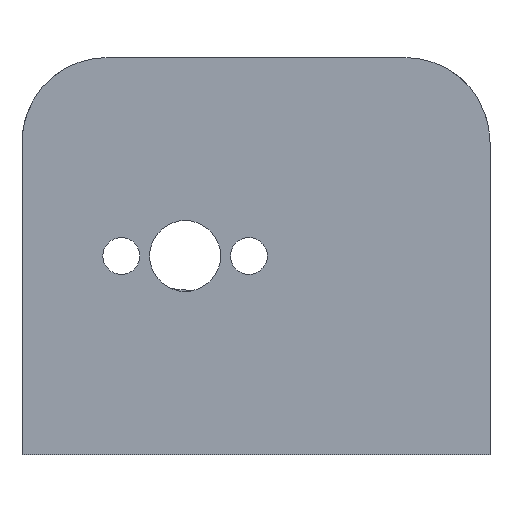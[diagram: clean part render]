
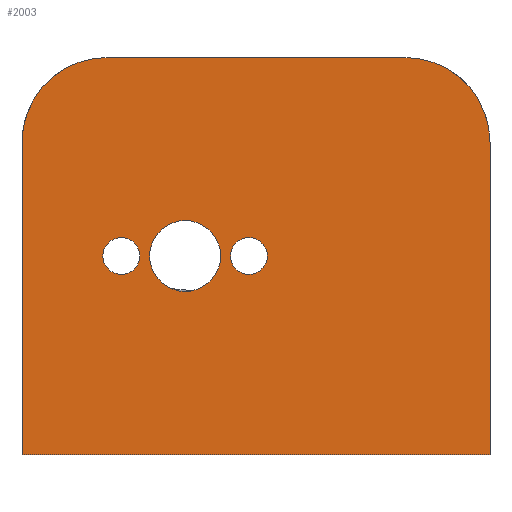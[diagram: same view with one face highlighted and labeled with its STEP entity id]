
A CAD part, front view. The second image highlights one B-rep face of the part: STEP entity #2003.
In plain terms, the highlighted planar face has unit normal (0, -1, 0).
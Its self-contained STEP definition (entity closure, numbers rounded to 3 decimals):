
#6 = CARTESIAN_POINT ( 'NONE',  ( -0.5, 0., 1.3 ) ) ;
#35 = VERTEX_POINT ( 'NONE', #869 ) ;
#37 = EDGE_CURVE ( 'NONE', #1230, #1457, #1207, .T. ) ;
#51 = CIRCLE ( 'NONE', #1331, 6. ) ;
#124 = CIRCLE ( 'NONE', #1487, 2.5 ) ;
#126 = CARTESIAN_POINT ( 'NONE',  ( -16.5, 0., -14. ) ) ;
#143 = DIRECTION ( 'NONE',  ( 0., 1., 0. ) ) ;
#147 = CARTESIAN_POINT ( 'NONE',  ( -0.5, 0., -1.3 ) ) ;
#189 = VERTEX_POINT ( 'NONE', #6 ) ;
#213 = EDGE_CURVE ( 'NONE', #2227, #589, #1871, .T. ) ;
#235 = VERTEX_POINT ( 'NONE', #1653 ) ;
#293 = DIRECTION ( 'NONE',  ( 0., 0., 1. ) ) ;
#300 = CARTESIAN_POINT ( 'NONE',  ( 10.5, 0., 14. ) ) ;
#342 = AXIS2_PLACEMENT_3D ( 'NONE', #416, #1805, #1985 ) ;
#369 = DIRECTION ( 'NONE',  ( 0., -1., 0. ) ) ;
#404 = CARTESIAN_POINT ( 'NONE',  ( -5., 0., 0. ) ) ;
#416 = CARTESIAN_POINT ( 'NONE',  ( -9.5, 0., 0. ) ) ;
#424 = ORIENTED_EDGE ( 'NONE', *, *, #1143, .F. ) ;
#436 = DIRECTION ( 'NONE',  ( 0., 0., -1. ) ) ;
#441 = CARTESIAN_POINT ( 'NONE',  ( 0., 0., 0. ) ) ;
#466 = FACE_BOUND ( 'NONE', #1643, .T. ) ;
#500 = AXIS2_PLACEMENT_3D ( 'NONE', #1183, #2279, #293 ) ;
#503 = EDGE_LOOP ( 'NONE', ( #424, #2030, #2110, #1654, #2068, #909 ) ) ;
#526 = ORIENTED_EDGE ( 'NONE', *, *, #2220, .T. ) ;
#551 = VERTEX_POINT ( 'NONE', #2172 ) ;
#565 = CARTESIAN_POINT ( 'NONE',  ( -10.5, 0., 8. ) ) ;
#570 = CARTESIAN_POINT ( 'NONE',  ( -16.5, 0., 14. ) ) ;
#576 = CARTESIAN_POINT ( 'NONE',  ( -5., 0., 2.5 ) ) ;
#584 = DIRECTION ( 'NONE',  ( 0., -1., 0. ) ) ;
#589 = VERTEX_POINT ( 'NONE', #576 ) ;
#598 = DIRECTION ( 'NONE',  ( 0., 1., 0. ) ) ;
#685 = CARTESIAN_POINT ( 'NONE',  ( 10.5, 0., 8. ) ) ;
#786 = LINE ( 'NONE', #126, #896 ) ;
#787 = VECTOR ( 'NONE', #1829, 1000. ) ;
#818 = DIRECTION ( 'NONE',  ( 0., 0., 1. ) ) ;
#823 = CARTESIAN_POINT ( 'NONE',  ( 16.5, 0., -14. ) ) ;
#828 = DIRECTION ( 'NONE',  ( 0., -1., 0. ) ) ;
#841 = CARTESIAN_POINT ( 'NONE',  ( -16.5, 0., 14. ) ) ;
#869 = CARTESIAN_POINT ( 'NONE',  ( -10.5, 0., 14. ) ) ;
#896 = VECTOR ( 'NONE', #2219, 1000. ) ;
#909 = ORIENTED_EDGE ( 'NONE', *, *, #37, .T. ) ;
#929 = AXIS2_PLACEMENT_3D ( 'NONE', #441, #1141, #1679 ) ;
#984 = CARTESIAN_POINT ( 'NONE',  ( 16.5, 0., 8. ) ) ;
#985 = VERTEX_POINT ( 'NONE', #1535 ) ;
#998 = VERTEX_POINT ( 'NONE', #1889 ) ;
#1017 = LINE ( 'NONE', #841, #1425 ) ;
#1027 = ORIENTED_EDGE ( 'NONE', *, *, #2054, .T. ) ;
#1042 = AXIS2_PLACEMENT_3D ( 'NONE', #1387, #143, #2297 ) ;
#1117 = EDGE_CURVE ( 'NONE', #998, #985, #1722, .T. ) ;
#1122 = LINE ( 'NONE', #1272, #787 ) ;
#1125 = CARTESIAN_POINT ( 'NONE',  ( -5., 0., 0. ) ) ;
#1141 = DIRECTION ( 'NONE',  ( 0., -1., 0. ) ) ;
#1143 = EDGE_CURVE ( 'NONE', #35, #1457, #1670, .T. ) ;
#1165 = EDGE_CURVE ( 'NONE', #1230, #2212, #1122, .T. ) ;
#1183 = CARTESIAN_POINT ( 'NONE',  ( -0.5, 0., 0. ) ) ;
#1205 = CIRCLE ( 'NONE', #342, 1.3 ) ;
#1207 = CIRCLE ( 'NONE', #2256, 6. ) ;
#1230 = VERTEX_POINT ( 'NONE', #984 ) ;
#1272 = CARTESIAN_POINT ( 'NONE',  ( 16.5, 0., 14. ) ) ;
#1313 = FACE_OUTER_BOUND ( 'NONE', #503, .T. ) ;
#1331 = AXIS2_PLACEMENT_3D ( 'NONE', #565, #1975, #436 ) ;
#1353 = EDGE_CURVE ( 'NONE', #235, #551, #1017, .T. ) ;
#1387 = CARTESIAN_POINT ( 'NONE',  ( -0.5, 0., 0. ) ) ;
#1425 = VECTOR ( 'NONE', #818, 1000. ) ;
#1457 = VERTEX_POINT ( 'NONE', #300 ) ;
#1487 = AXIS2_PLACEMENT_3D ( 'NONE', #1125, #369, #1611 ) ;
#1491 = ORIENTED_EDGE ( 'NONE', *, *, #213, .F. ) ;
#1535 = CARTESIAN_POINT ( 'NONE',  ( -9.5, 0., -1.3 ) ) ;
#1538 = CARTESIAN_POINT ( 'NONE',  ( -5., 0., -2.5 ) ) ;
#1543 = FACE_BOUND ( 'NONE', #1695, .T. ) ;
#1559 = EDGE_CURVE ( 'NONE', #985, #998, #1205, .T. ) ;
#1579 = VECTOR ( 'NONE', #2182, 1000. ) ;
#1611 = DIRECTION ( 'NONE',  ( 0., 0., -1. ) ) ;
#1636 = ORIENTED_EDGE ( 'NONE', *, *, #2180, .F. ) ;
#1643 = EDGE_LOOP ( 'NONE', ( #1899, #2066 ) ) ;
#1653 = CARTESIAN_POINT ( 'NONE',  ( -16.5, 0., -14. ) ) ;
#1654 = ORIENTED_EDGE ( 'NONE', *, *, #1701, .F. ) ;
#1660 = CARTESIAN_POINT ( 'NONE',  ( -9.5, 0., 0. ) ) ;
#1670 = LINE ( 'NONE', #570, #1579 ) ;
#1679 = DIRECTION ( 'NONE',  ( 0., 0., -1. ) ) ;
#1695 = EDGE_LOOP ( 'NONE', ( #1491, #1636 ) ) ;
#1701 = EDGE_CURVE ( 'NONE', #2212, #235, #786, .T. ) ;
#1712 = FACE_BOUND ( 'NONE', #2201, .T. ) ;
#1715 = DIRECTION ( 'NONE',  ( 0., 0., -1. ) ) ;
#1722 = CIRCLE ( 'NONE', #2292, 1.3 ) ;
#1805 = DIRECTION ( 'NONE',  ( 0., 1., 0. ) ) ;
#1808 = DIRECTION ( 'NONE',  ( 0., 0., 1. ) ) ;
#1829 = DIRECTION ( 'NONE',  ( 0., 0., -1. ) ) ;
#1844 = VERTEX_POINT ( 'NONE', #147 ) ;
#1871 = CIRCLE ( 'NONE', #2060, 2.5 ) ;
#1889 = CARTESIAN_POINT ( 'NONE',  ( -9.5, 0., 1.3 ) ) ;
#1899 = ORIENTED_EDGE ( 'NONE', *, *, #1117, .T. ) ;
#1975 = DIRECTION ( 'NONE',  ( 0., -1., 0. ) ) ;
#1985 = DIRECTION ( 'NONE',  ( 0., 0., 1. ) ) ;
#1994 = DIRECTION ( 'NONE',  ( 0., 0., -1. ) ) ;
#2003 = ADVANCED_FACE ( 'NONE', ( #466, #1712, #1543, #1313 ), #2022, .T. ) ;
#2022 = PLANE ( 'NONE',  #929 ) ;
#2030 = ORIENTED_EDGE ( 'NONE', *, *, #2090, .T. ) ;
#2042 = CIRCLE ( 'NONE', #1042, 1.3 ) ;
#2051 = CIRCLE ( 'NONE', #500, 1.3 ) ;
#2054 = EDGE_CURVE ( 'NONE', #189, #1844, #2042, .T. ) ;
#2060 = AXIS2_PLACEMENT_3D ( 'NONE', #404, #584, #1994 ) ;
#2066 = ORIENTED_EDGE ( 'NONE', *, *, #1559, .T. ) ;
#2068 = ORIENTED_EDGE ( 'NONE', *, *, #1165, .F. ) ;
#2090 = EDGE_CURVE ( 'NONE', #35, #551, #51, .T. ) ;
#2110 = ORIENTED_EDGE ( 'NONE', *, *, #1353, .F. ) ;
#2172 = CARTESIAN_POINT ( 'NONE',  ( -16.5, 0., 8. ) ) ;
#2180 = EDGE_CURVE ( 'NONE', #589, #2227, #124, .T. ) ;
#2182 = DIRECTION ( 'NONE',  ( 1., 0., 0. ) ) ;
#2201 = EDGE_LOOP ( 'NONE', ( #1027, #526 ) ) ;
#2212 = VERTEX_POINT ( 'NONE', #823 ) ;
#2219 = DIRECTION ( 'NONE',  ( -1., 0., 0. ) ) ;
#2220 = EDGE_CURVE ( 'NONE', #1844, #189, #2051, .T. ) ;
#2227 = VERTEX_POINT ( 'NONE', #1538 ) ;
#2256 = AXIS2_PLACEMENT_3D ( 'NONE', #685, #828, #1715 ) ;
#2279 = DIRECTION ( 'NONE',  ( 0., 1., 0. ) ) ;
#2292 = AXIS2_PLACEMENT_3D ( 'NONE', #1660, #598, #1808 ) ;
#2297 = DIRECTION ( 'NONE',  ( 0., 0., 1. ) ) ;
